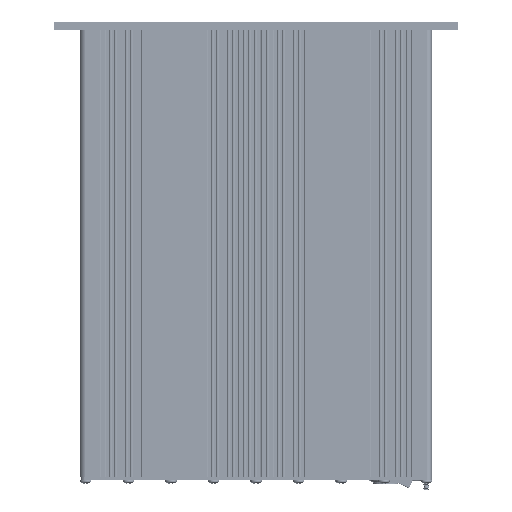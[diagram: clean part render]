
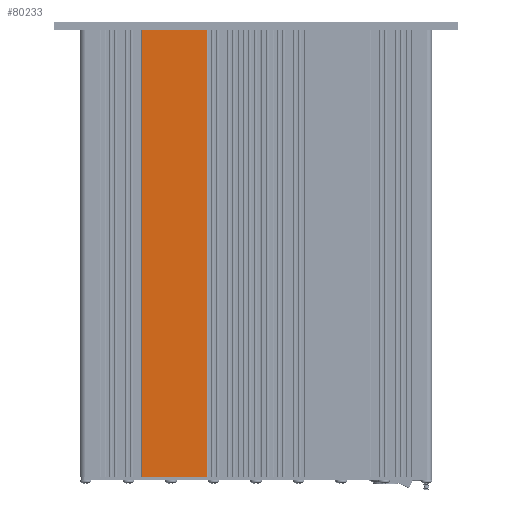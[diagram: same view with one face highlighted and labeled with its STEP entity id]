
A CAD part, front view. The second image highlights one B-rep face of the part: STEP entity #80233.
In plain terms, the highlighted planar face has unit normal (0, -1, 0).
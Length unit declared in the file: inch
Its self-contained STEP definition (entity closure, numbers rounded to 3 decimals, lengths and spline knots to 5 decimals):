
#1787 = AXIS2_PLACEMENT_3D ( 'NONE', #152610, #278455, #228172 ) ;
#3104 = VECTOR ( 'NONE', #155162, 39.37008 ) ;
#10022 = LINE ( 'NONE', #106387, #246913 ) ;
#13153 = LINE ( 'NONE', #248258, #3104 ) ;
#16746 = VERTEX_POINT ( 'NONE', #152965 ) ;
#29821 = CARTESIAN_POINT ( 'NONE',  ( -1.13891, -1.7535, 5.25 ) ) ;
#34307 = VERTEX_POINT ( 'NONE', #29821 ) ;
#80233 = ADVANCED_FACE ( 'NONE', ( #111524 ), #250312, .T. ) ;
#98241 = VERTEX_POINT ( 'NONE', #154557 ) ;
#106387 = CARTESIAN_POINT ( 'NONE',  ( -2.68016, -1.7535, -5.25 ) ) ;
#111524 = FACE_OUTER_BOUND ( 'NONE', #125839, .T. ) ;
#112904 = LINE ( 'NONE', #279841, #257915 ) ;
#113654 = ORIENTED_EDGE ( 'NONE', *, *, #136134, .F. ) ;
#125839 = EDGE_LOOP ( 'NONE', ( #113654, #238239, #247640, #209389 ) ) ;
#136134 = EDGE_CURVE ( 'NONE', #16746, #34307, #112904, .T. ) ;
#152610 = CARTESIAN_POINT ( 'NONE',  ( -2.68016, -1.7535, -5.25 ) ) ;
#152965 = CARTESIAN_POINT ( 'NONE',  ( -2.68016, -1.7535, 5.25 ) ) ;
#154557 = CARTESIAN_POINT ( 'NONE',  ( -2.68016, -1.7535, -5.25 ) ) ;
#155162 = DIRECTION ( 'NONE',  ( 0., 0., 1. ) ) ;
#160367 = CARTESIAN_POINT ( 'NONE',  ( -2.68016, -1.7535, -5.25 ) ) ;
#163325 = DIRECTION ( 'NONE',  ( 1., 0., 0. ) ) ;
#182439 = EDGE_CURVE ( 'NONE', #98241, #16746, #10022, .T. ) ;
#186244 = VERTEX_POINT ( 'NONE', #212535 ) ;
#209389 = ORIENTED_EDGE ( 'NONE', *, *, #212561, .T. ) ;
#212535 = CARTESIAN_POINT ( 'NONE',  ( -1.13891, -1.7535, -5.25 ) ) ;
#212561 = EDGE_CURVE ( 'NONE', #186244, #34307, #13153, .T. ) ;
#221758 = EDGE_CURVE ( 'NONE', #98241, #186244, #229759, .T. ) ;
#228172 = DIRECTION ( 'NONE',  ( 0., 0., -1. ) ) ;
#229759 = LINE ( 'NONE', #160367, #311400 ) ;
#238239 = ORIENTED_EDGE ( 'NONE', *, *, #182439, .F. ) ;
#246913 = VECTOR ( 'NONE', #274821, 39.37008 ) ;
#247640 = ORIENTED_EDGE ( 'NONE', *, *, #221758, .T. ) ;
#248258 = CARTESIAN_POINT ( 'NONE',  ( -1.13891, -1.7535, -5.25 ) ) ;
#250312 = PLANE ( 'NONE',  #1787 ) ;
#256513 = DIRECTION ( 'NONE',  ( 1., 0., 0. ) ) ;
#257915 = VECTOR ( 'NONE', #163325, 39.37008 ) ;
#274821 = DIRECTION ( 'NONE',  ( 0., 0., 1. ) ) ;
#278455 = DIRECTION ( 'NONE',  ( 0., -1., 0. ) ) ;
#279841 = CARTESIAN_POINT ( 'NONE',  ( -2.68016, -1.7535, 5.25 ) ) ;
#311400 = VECTOR ( 'NONE', #256513, 39.37008 ) ;
